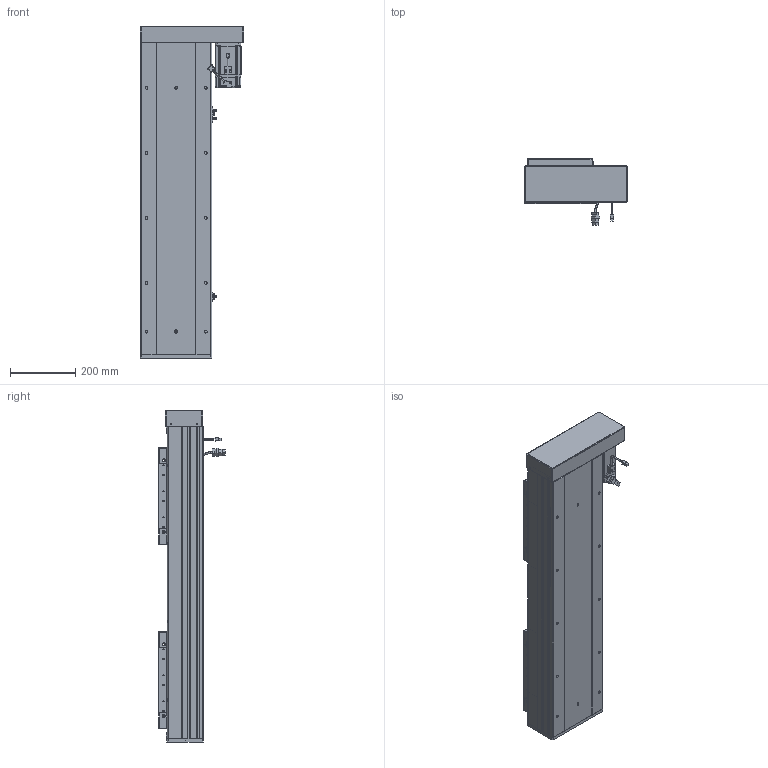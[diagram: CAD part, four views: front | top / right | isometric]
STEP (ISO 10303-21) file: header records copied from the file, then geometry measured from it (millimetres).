
FILE_DESCRIPTION (( 'STEP AP203' ), '1' );
FILE_NAME ('RY220F-L2525-300-RK.SLDASM_550.step', '2022-07-04T01:34:57', ( '' ), ( '' ), 'SwSTEP 2.0', 'SolidWorks 2016', '' );
FILE_SCHEMA (( 'CONFIG_CONTROL_DESIGN' ));
Length unit declared in the file: millimetre
Products named in the file (15): RY220F蛌殏菁釱-300_550; RY220F臏賑釱25-32佪裝; RY220F-滅鳥奻裔; 滅袉蝶18-24; 侐源滅袉蝶; RY220F-蛌殏奻裔啣-300_550; RY220F-L2525-300-RK.SLDASM_550; RY220F綴裔啣; RY220F-672覜茼んえ; RY220F-詩湍揤踡輸; RY220左右折电机安装板; RY220酘衵殏萇儂欶; RY220F-祥凄詩湍-蛌殏-300_550; 怢湛750W_ECMA-CX0807ES; 覜茼ん672
Assembly tree (24 placements, depth 2):
  RY220F-L2525-300-RK.SLDASM_550
    RY220F蛌殏菁釱-300_550
    RY220F-蛌殏奻裔啣-300_550  x2
    怢湛750W_ECMA-CX0807ES
    RY220F臏賑釱25-32佪裝  x2
    RY220F-滅鳥奻裔  x2
    滅袉蝶18-24  x3
    RY220F綴裔啣
    RY220F-祥凄詩湍-蛌殏-300_550
    RY220F-詩湍揤踡輸  x2
    覜茼ん672  x3
    RY220F-672覜茼んえ  x2
    RY220左右折电机安装板
    RY220酘衵殏萇儂欶
    侐源滅袉蝶  x2
Bounding box: 317.5 x 205.27 x 1021 mm (x, y, z)
Volume: 11481117.9 mm3; surface area: 2942467.2 mm2
Topology: 25 solids, 25 shells, 2664 faces, 7264 edges, 4522 vertices
Faces by surface type: cylinder 1190, plane 1044, cone 359, bspline 45, sphere 16, torus 10
Entity records: 65852 total; most frequent: CARTESIAN_POINT 18183, ORIENTED_EDGE 9670, DIRECTION 9288, EDGE_CURVE 4835, AXIS2_PLACEMENT_3D 3278, VERTEX_POINT 3138, VECTOR 2732, LINE 2732
